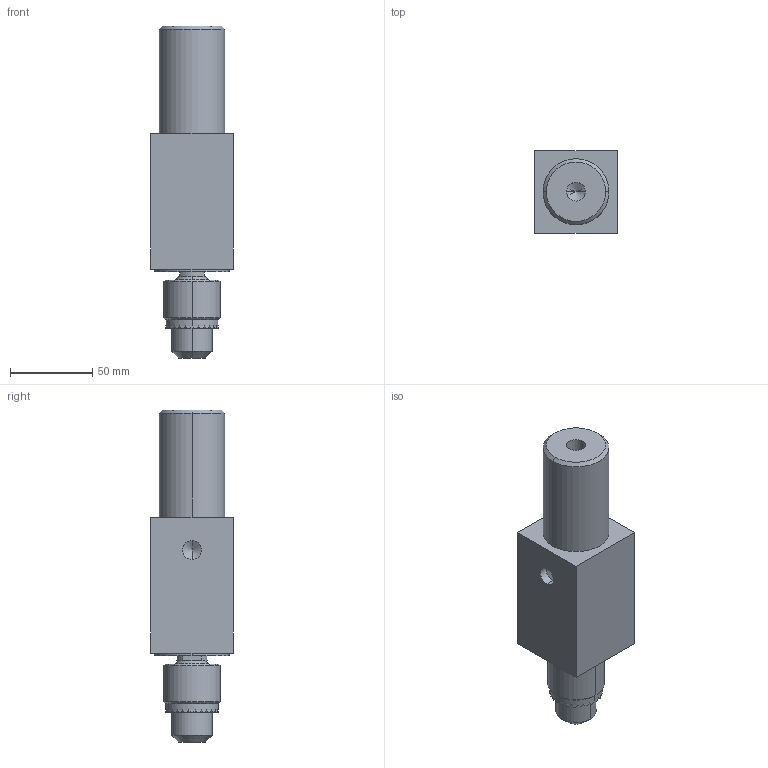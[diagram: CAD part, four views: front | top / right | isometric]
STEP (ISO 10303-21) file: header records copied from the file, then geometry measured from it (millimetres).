
FILE_DESCRIPTION (( 'STEP AP203' ), '1' );
FILE_NAME ('BE335-3313SK with keychuck 0,8-10,0mm.STEP', '2009-10-15T06:53:22', ( 'HP' ), ( '' ), 'SwSTEP 2.0', 'SolidWorks 2008', '' );
FILE_SCHEMA (( 'CONFIG_CONTROL_DESIGN' ));
Length unit declared in the file: millimetre
Products named in the file (3): 041J004002 keychuck 0,8-10mm; BE335-3313SK; BE335-3313SK with keychuck 0,8-10,0mm
Assembly tree (2 placements, depth 2):
  BE335-3313SK with keychuck 0,8-10,0mm
    BE335-3313SK
    041J004002 keychuck 0,8-10mm
Bounding box: 50 x 50 x 201.4 mm (x, y, z)
Volume: 316875.9 mm3; surface area: 40142.9 mm2
Topology: 2 solids, 2 shells, 177 faces, 418 edges, 245 vertices
Faces by surface type: plane 121, cylinder 30, cone 26
Entity records: 5175 total; most frequent: CARTESIAN_POINT 987, DIRECTION 812, ORIENTED_EDGE 808, EDGE_CURVE 404, AXIS2_PLACEMENT_3D 278, LINE 256, VECTOR 256, VERTEX_POINT 245
